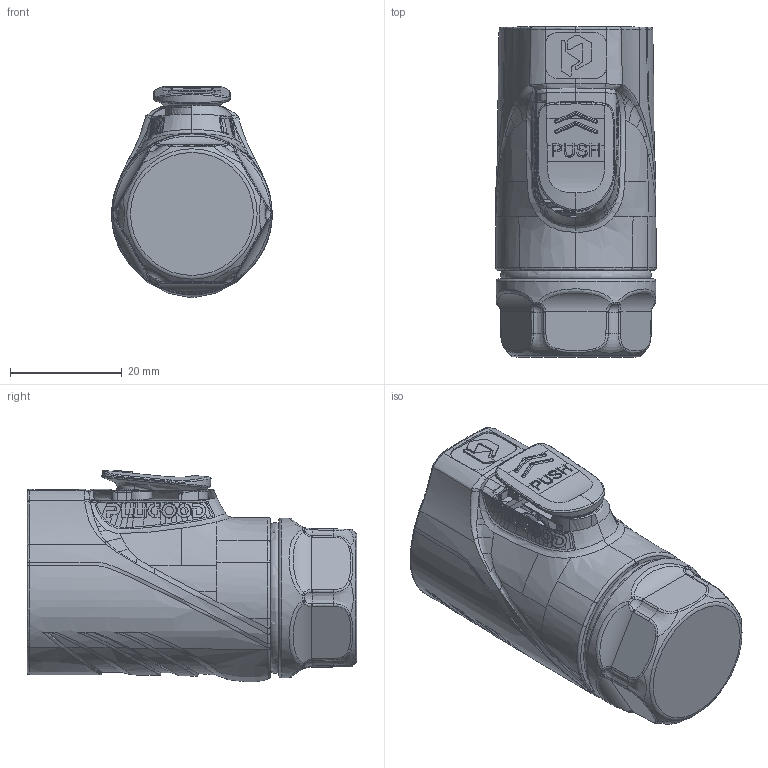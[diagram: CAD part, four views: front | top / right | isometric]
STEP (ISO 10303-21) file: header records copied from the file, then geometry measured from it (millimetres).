
FILE_DESCRIPTION (( 'STEP AP203' ), '1' );
FILE_NAME ('PLG20 2Ð¾²åÍ·.STEP', '2025-03-20T02:09:20', ( '' ), ( '' ), 'SwSTEP 2.0', 'SolidWorks 2024', '' );
FILE_SCHEMA (( 'CONFIG_CONTROL_DESIGN' ));
Length unit declared in the file: millimetre
Products named in the file (1): PLG20 2芯插头
Bounding box: 28.77 x 59.1 x 37.93 mm (x, y, z)
Topology: 2 solids, 6 shells, 1136 faces, 3046 edges, 1933 vertices
Faces by surface type: bspline 631, plane 263, cylinder 141, torus 54, cone 38, sphere 9
Full cylindrical faces by diameter (mm): 1.5 x2, 1.519 x1, 1.6 x2, 2.5 x1, 2.65 x1, 3 x2, 3.3 x2, 4.5 x1, 16.2 x1, 17.5 x1, 17.6 x1, 19.2 x2, 19.3 x2, 19.4 x2, 22.108 x7, 22.4 x8, 28.6 x1
Entity records: 86444 total; most frequent: CARTESIAN_POINT 64429, ORIENTED_EDGE 5818, EDGE_CURVE 2909, DIRECTION 2498, VERTEX_POINT 1870, B_SPLINE_CURVE_WITH_KNOTS 1733, EDGE_LOOP 1203, FACE_OUTER_BOUND 1163
